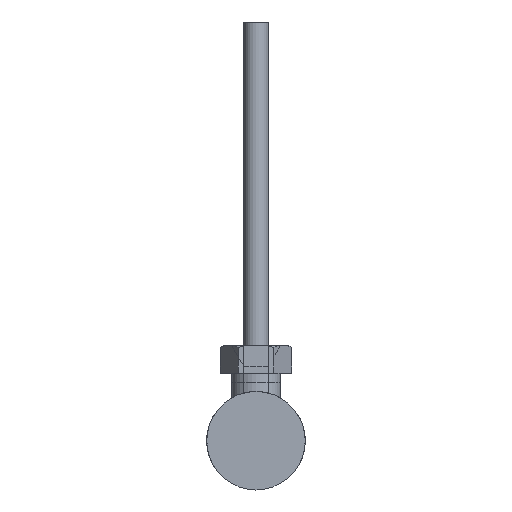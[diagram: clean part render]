
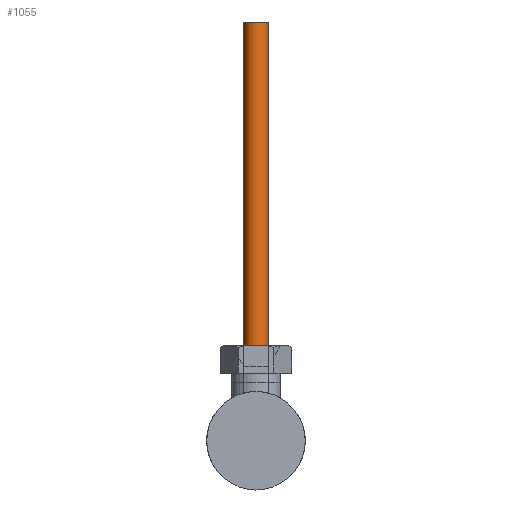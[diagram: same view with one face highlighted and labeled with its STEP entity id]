
A CAD part, front view. The second image highlights one B-rep face of the part: STEP entity #1055.
In plain terms, the highlighted cylindrical face has radius 2 mm (diameter 4 mm), a full revolution.
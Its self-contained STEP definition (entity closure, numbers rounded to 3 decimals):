
#174=CYLINDRICAL_SURFACE('',#1588,2.);
#379=ORIENTED_EDGE('',*,*,#488,.T.);
#380=ORIENTED_EDGE('',*,*,#489,.F.);
#488=EDGE_CURVE('',#582,#582,#648,.T.);
#489=EDGE_CURVE('',#583,#583,#649,.T.);
#582=VERTEX_POINT('',#2368);
#583=VERTEX_POINT('',#2370);
#648=CIRCLE('',#1589,2.);
#649=CIRCLE('',#1590,2.);
#793=EDGE_LOOP('',(#379));
#794=EDGE_LOOP('',(#380));
#944=FACE_BOUND('',#793,.T.);
#945=FACE_BOUND('',#794,.T.);
#1055=ADVANCED_FACE('',(#944,#945),#174,.T.);
#1588=AXIS2_PLACEMENT_3D('',#2366,#1912,#1913);
#1589=AXIS2_PLACEMENT_3D('',#2367,#1914,#1915);
#1590=AXIS2_PLACEMENT_3D('',#2369,#1916,#1917);
#1912=DIRECTION('',(0.,0.,-1.));
#1913=DIRECTION('',(-1.,0.,0.));
#1914=DIRECTION('',(0.,0.,-1.));
#1915=DIRECTION('',(1.,0.,0.));
#1916=DIRECTION('',(0.,0.,-1.));
#1917=DIRECTION('',(1.,0.,0.));
#2366=CARTESIAN_POINT('',(0.,0.,70.));
#2367=CARTESIAN_POINT('',(0.,0.,70.));
#2368=CARTESIAN_POINT('',(2.,0.,70.));
#2369=CARTESIAN_POINT('',(0.,0.,0.));
#2370=CARTESIAN_POINT('',(2.,0.,0.));
